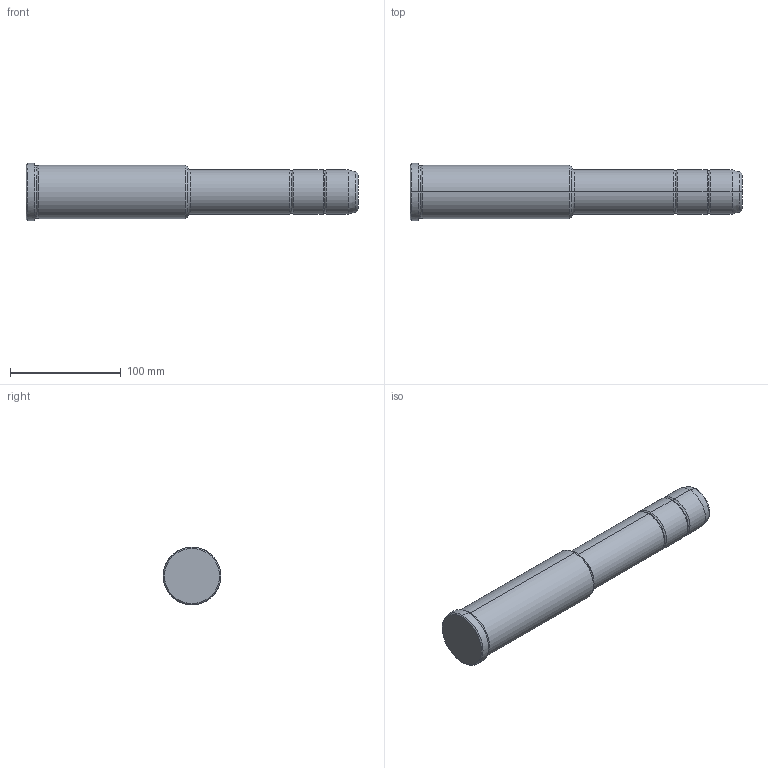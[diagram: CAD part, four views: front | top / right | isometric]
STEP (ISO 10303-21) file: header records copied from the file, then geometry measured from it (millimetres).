
FILE_DESCRIPTION(('CATIA V5 STEP Exchange'),'2;1');
FILE_NAME('C:\Users\Utente\Desktop\IO LAVORO\3D X SITO CF\X SITO\PLASTICA\351\351-40X146X300.stp','2021-10-28T18:42:16+00:00',('none'),('none'),'CATIA Version 5 Release 20 GA (IN-10)','CATIA V5 STEP AP203','none');
FILE_SCHEMA(('CONFIG_CONTROL_DESIGN'));
Length unit declared in the file: millimetre
Products named in the file (1): 351-40X146X300
Bounding box: 300 x 52 x 52 mm (x, y, z)
Volume: 458046.9 mm3; surface area: 45164.4 mm2
Topology: 1 solids, 1 shells, 36 faces, 102 edges, 70 vertices
Faces by surface type: torus 16, cylinder 10, cone 6, plane 4
Entity records: 1292 total; most frequent: CARTESIAN_POINT 321, ORIENTED_EDGE 204, DIRECTION 166, AXIS2_PLACEMENT_3D 115, EDGE_CURVE 102, CIRCLE 78, VERTEX_POINT 70, EDGE_LOOP 38
